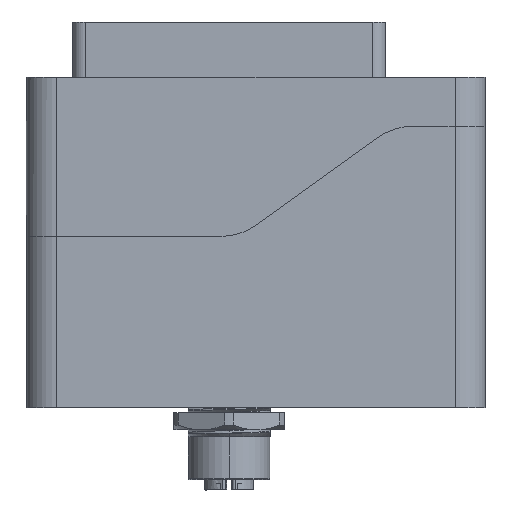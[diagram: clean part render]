
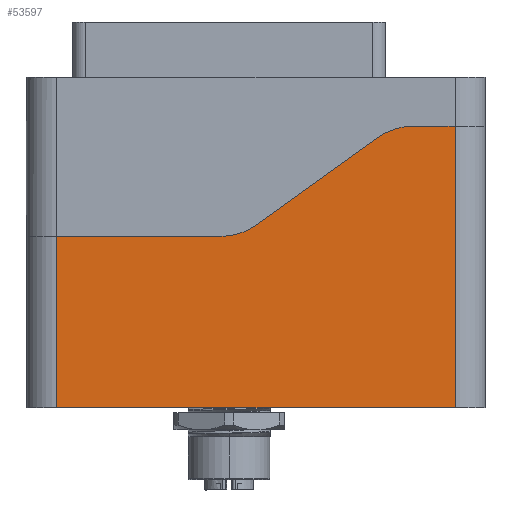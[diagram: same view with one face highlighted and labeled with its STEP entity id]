
A CAD part, left-side view. The second image highlights one B-rep face of the part: STEP entity #53597.
In plain terms, the highlighted planar face has unit normal (-1, 0, 0).
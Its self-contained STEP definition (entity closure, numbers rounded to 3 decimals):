
#845 = EDGE_CURVE ( 'NONE', #12680, #159090, #155529, .T. ) ;
#1601 = LINE ( 'NONE', #84760, #25262 ) ;
#8387 = LINE ( 'NONE', #47416, #133126 ) ;
#12258 = EDGE_CURVE ( 'NONE', #107842, #24973, #74839, .T. ) ;
#12677 = EDGE_CURVE ( 'NONE', #24973, #61403, #22619, .T. ) ;
#12680 = VERTEX_POINT ( 'NONE', #140265 ) ;
#13618 = EDGE_CURVE ( 'NONE', #144362, #34848, #8387, .T. ) ;
#18243 = DIRECTION ( 'NONE',  ( 0., -1., 0. ) ) ;
#22619 = CIRCLE ( 'NONE', #114948, 10. ) ;
#24973 = VERTEX_POINT ( 'NONE', #69953 ) ;
#25262 = VECTOR ( 'NONE', #112751, 1000. ) ;
#26534 = VECTOR ( 'NONE', #124913, 1000. ) ;
#26572 = CARTESIAN_POINT ( 'NONE',  ( -54., 60.671, -66.335 ) ) ;
#30180 = CARTESIAN_POINT ( 'NONE',  ( -54., 33.897, -28.335 ) ) ;
#34848 = VERTEX_POINT ( 'NONE', #26572 ) ;
#47416 = CARTESIAN_POINT ( 'NONE',  ( -54., 60.671, -20.335 ) ) ;
#51409 = CARTESIAN_POINT ( 'NONE',  ( -54., -4.329, -66.335 ) ) ;
#53597 = ADVANCED_FACE ( 'NONE', ( #179018 ), #111132, .F. ) ;
#56286 = ORIENTED_EDGE ( 'NONE', *, *, #13618, .T. ) ;
#59847 = CIRCLE ( 'NONE', #160861, 10. ) ;
#60008 = DIRECTION ( 'NONE',  ( 0., 0., -1. ) ) ;
#61403 = VERTEX_POINT ( 'NONE', #87709 ) ;
#64817 = CARTESIAN_POINT ( 'NONE',  ( -54., -9.329, -38.335 ) ) ;
#66729 = ORIENTED_EDGE ( 'NONE', *, *, #152300, .T. ) ;
#69847 = CARTESIAN_POINT ( 'NONE',  ( -54., -9.329, -66.335 ) ) ;
#69953 = CARTESIAN_POINT ( 'NONE',  ( -54., 28.054, -36.45 ) ) ;
#70736 = CARTESIAN_POINT ( 'NONE',  ( -54., 60.671, -38.335 ) ) ;
#71657 = DIRECTION ( 'NONE',  ( 0., 1., 0. ) ) ;
#74839 = LINE ( 'NONE', #89254, #161031 ) ;
#76051 = CARTESIAN_POINT ( 'NONE',  ( -54., -9.329, -20.335 ) ) ;
#84760 = CARTESIAN_POINT ( 'NONE',  ( -54., -4.329, -20.335 ) ) ;
#87553 = EDGE_CURVE ( 'NONE', #125350, #159090, #1601, .T. ) ;
#87709 = CARTESIAN_POINT ( 'NONE',  ( -54., 33.897, -38.335 ) ) ;
#88455 = DIRECTION ( 'NONE',  ( 0., 1., 0. ) ) ;
#89254 = CARTESIAN_POINT ( 'NONE',  ( -54., -4.207, -13.222 ) ) ;
#89710 = ORIENTED_EDGE ( 'NONE', *, *, #87553, .T. ) ;
#91898 = LINE ( 'NONE', #64817, #133560 ) ;
#97810 = LINE ( 'NONE', #69847, #26534 ) ;
#107764 = AXIS2_PLACEMENT_3D ( 'NONE', #157130, #142657, #88455 ) ;
#107842 = VERTEX_POINT ( 'NONE', #159072 ) ;
#109072 = DIRECTION ( 'NONE',  ( -1., 0., 0. ) ) ;
#111132 = PLANE ( 'NONE',  #107764 ) ;
#112751 = DIRECTION ( 'NONE',  ( 0., 0., 1. ) ) ;
#113030 = ORIENTED_EDGE ( 'NONE', *, *, #118934, .T. ) ;
#114948 = AXIS2_PLACEMENT_3D ( 'NONE', #30180, #136712, #71657 ) ;
#118934 = EDGE_CURVE ( 'NONE', #61403, #144362, #91898, .T. ) ;
#119718 = ORIENTED_EDGE ( 'NONE', *, *, #845, .F. ) ;
#120456 = ORIENTED_EDGE ( 'NONE', *, *, #12258, .T. ) ;
#123411 = EDGE_CURVE ( 'NONE', #12680, #107842, #59847, .T. ) ;
#124913 = DIRECTION ( 'NONE',  ( 0., -1., 0. ) ) ;
#125350 = VERTEX_POINT ( 'NONE', #51409 ) ;
#133126 = VECTOR ( 'NONE', #60008, 1000. ) ;
#133560 = VECTOR ( 'NONE', #145189, 1000. ) ;
#134000 = EDGE_LOOP ( 'NONE', ( #89710, #119718, #146123, #120456, #175922, #113030, #56286, #66729 ) ) ;
#136712 = DIRECTION ( 'NONE',  ( 1., 0., 0. ) ) ;
#140265 = CARTESIAN_POINT ( 'NONE',  ( -54., 2.446, -20.335 ) ) ;
#140409 = VECTOR ( 'NONE', #18243, 1000. ) ;
#142657 = DIRECTION ( 'NONE',  ( 1., 0., 0. ) ) ;
#143454 = DIRECTION ( 'NONE',  ( 0., 0.812, -0.584 ) ) ;
#144362 = VERTEX_POINT ( 'NONE', #70736 ) ;
#145189 = DIRECTION ( 'NONE',  ( 0., 1., 0. ) ) ;
#146123 = ORIENTED_EDGE ( 'NONE', *, *, #123411, .T. ) ;
#148852 = CARTESIAN_POINT ( 'NONE',  ( -54., 2.446, -30.335 ) ) ;
#152300 = EDGE_CURVE ( 'NONE', #34848, #125350, #97810, .T. ) ;
#155529 = LINE ( 'NONE', #76051, #140409 ) ;
#157130 = CARTESIAN_POINT ( 'NONE',  ( -54., -9.329, -20.335 ) ) ;
#159072 = CARTESIAN_POINT ( 'NONE',  ( -54., 8.289, -22.219 ) ) ;
#159090 = VERTEX_POINT ( 'NONE', #160638 ) ;
#160638 = CARTESIAN_POINT ( 'NONE',  ( -54., -4.329, -20.335 ) ) ;
#160861 = AXIS2_PLACEMENT_3D ( 'NONE', #148852, #109072, #164223 ) ;
#161031 = VECTOR ( 'NONE', #143454, 1000. ) ;
#164223 = DIRECTION ( 'NONE',  ( 0., 1., 0. ) ) ;
#175922 = ORIENTED_EDGE ( 'NONE', *, *, #12677, .T. ) ;
#179018 = FACE_OUTER_BOUND ( 'NONE', #134000, .T. ) ;
